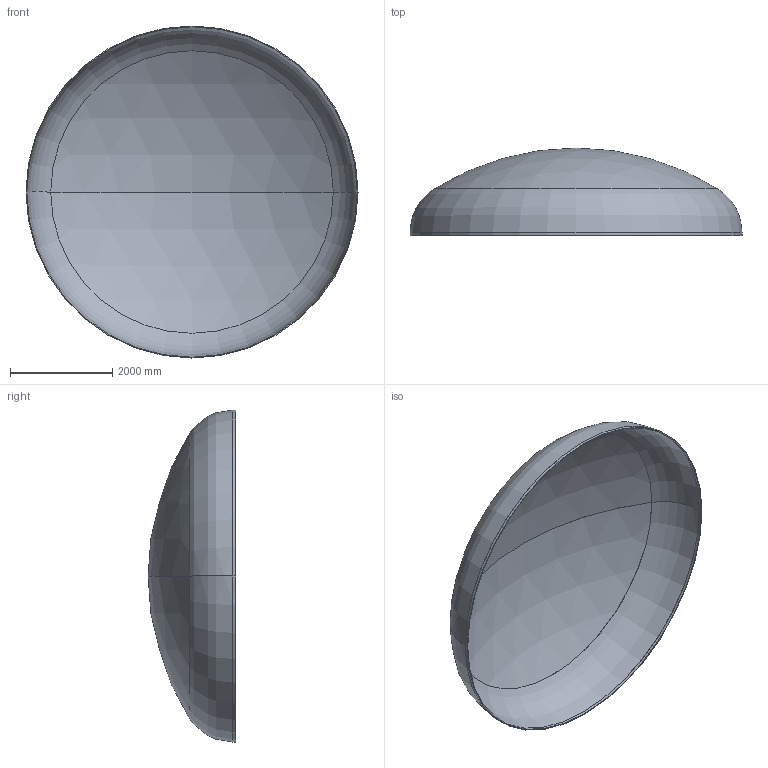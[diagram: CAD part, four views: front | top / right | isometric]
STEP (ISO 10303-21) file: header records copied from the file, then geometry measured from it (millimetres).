
FILE_DESCRIPTION (( 'STEP AP203' ), '1' );
FILE_NAME ('DIN 28013 Korbbogenform_-_Boden DIN 28013 - 6500 x 55 - I - s=16.step', '2016-07-04T10:40:09', ( '' ), ( '' ), 'SwSTEP 2.0', 'SolidWorks 2013', '' );
FILE_SCHEMA (( 'CONFIG_CONTROL_DESIGN' ));
Length unit declared in the file: millimetre
Products named in the file (1): DIN 28013 Korbbogenform_-_Boden DIN 28013 - 6500 x 55 - I - s=16
Bounding box: 6500 x 1714.42 x 6500 mm (x, y, z)
Volume: 750783213.9 mm3; surface area: 94174320.8 mm2
Topology: 1 solids, 1 shells, 13 faces, 24 edges, 14 vertices
Faces by surface type: torus 4, cylinder 4, sphere 4, plane 1
Entity records: 407 total; most frequent: DIRECTION 72, CARTESIAN_POINT 52, ORIENTED_EDGE 48, AXIS2_PLACEMENT_3D 34, EDGE_CURVE 24, CIRCLE 20, VERTEX_POINT 14, EDGE_LOOP 14
